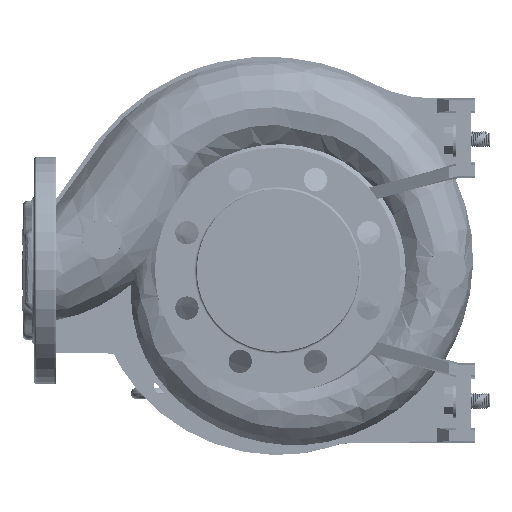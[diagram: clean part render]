
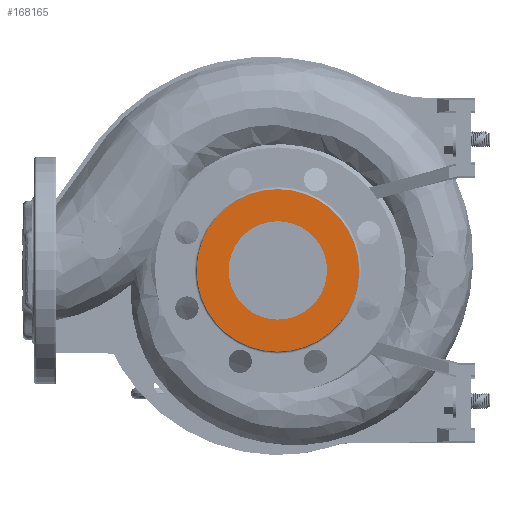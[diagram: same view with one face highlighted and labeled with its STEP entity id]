
A CAD part, left-side view. The second image highlights one B-rep face of the part: STEP entity #168165.
In plain terms, the highlighted planar face has unit normal (-1, 0, 0).
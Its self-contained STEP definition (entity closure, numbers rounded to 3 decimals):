
#5607 = AXIS2_PLACEMENT_3D ( 'NONE', #11086, #136278, #162971 ) ;
#11086 = CARTESIAN_POINT ( 'NONE',  ( -100., 0., 0. ) ) ;
#13030 = AXIS2_PLACEMENT_3D ( 'NONE', #18624, #87690, #60958 ) ;
#13301 = DIRECTION ( 'NONE',  ( -1., 0., 0. ) ) ;
#15104 = DIRECTION ( 'NONE',  ( 0., -1., 0. ) ) ;
#18624 = CARTESIAN_POINT ( 'NONE',  ( -100., 0., 0. ) ) ;
#18938 = CIRCLE ( 'NONE', #13030, 66. ) ;
#21788 = EDGE_CURVE ( 'NONE', #119410, #126117, #165325, .T. ) ;
#22462 = ORIENTED_EDGE ( 'NONE', *, *, #21788, .F. ) ;
#33006 = EDGE_CURVE ( 'NONE', #126117, #119410, #177533, .T. ) ;
#35446 = VERTEX_POINT ( 'NONE', #97945 ) ;
#37482 = CARTESIAN_POINT ( 'NONE',  ( -100., 40., 0. ) ) ;
#51157 = EDGE_CURVE ( 'NONE', #35446, #154435, #18938, .T. ) ;
#54816 = ORIENTED_EDGE ( 'NONE', *, *, #151331, .F. ) ;
#57600 = ORIENTED_EDGE ( 'NONE', *, *, #33006, .F. ) ;
#60958 = DIRECTION ( 'NONE',  ( 0., 1., 0. ) ) ;
#77703 = AXIS2_PLACEMENT_3D ( 'NONE', #93944, #147368, #106851 ) ;
#80137 = PLANE ( 'NONE',  #77703 ) ;
#81284 = DIRECTION ( 'NONE',  ( -1., 0., 0. ) ) ;
#83650 = AXIS2_PLACEMENT_3D ( 'NONE', #167913, #13301, #15104 ) ;
#87690 = DIRECTION ( 'NONE',  ( 1., 0., 0. ) ) ;
#91232 = FACE_BOUND ( 'NONE', #100297, .T. ) ;
#93944 = CARTESIAN_POINT ( 'NONE',  ( -100., 0., 0. ) ) ;
#96918 = CARTESIAN_POINT ( 'NONE',  ( -100., 0., 0. ) ) ;
#97826 = DIRECTION ( 'NONE',  ( 0., -1., 0. ) ) ;
#97945 = CARTESIAN_POINT ( 'NONE',  ( -100., -66., 0. ) ) ;
#100297 = EDGE_LOOP ( 'NONE', ( #22462, #57600 ) ) ;
#102659 = CARTESIAN_POINT ( 'NONE',  ( -100., -40., 0. ) ) ;
#106851 = DIRECTION ( 'NONE',  ( 0., -1., 0. ) ) ;
#112398 = AXIS2_PLACEMENT_3D ( 'NONE', #96918, #81284, #97826 ) ;
#119410 = VERTEX_POINT ( 'NONE', #102659 ) ;
#126117 = VERTEX_POINT ( 'NONE', #37482 ) ;
#136278 = DIRECTION ( 'NONE',  ( 1., 0., 0. ) ) ;
#136922 = EDGE_LOOP ( 'NONE', ( #54816, #179966 ) ) ;
#137182 = FACE_OUTER_BOUND ( 'NONE', #136922, .T. ) ;
#147368 = DIRECTION ( 'NONE',  ( -1., 0., 0. ) ) ;
#151331 = EDGE_CURVE ( 'NONE', #154435, #35446, #167189, .T. ) ;
#154435 = VERTEX_POINT ( 'NONE', #165384 ) ;
#162971 = DIRECTION ( 'NONE',  ( 0., 1., 0. ) ) ;
#165325 = CIRCLE ( 'NONE', #112398, 40. ) ;
#165384 = CARTESIAN_POINT ( 'NONE',  ( -100., 66., 0. ) ) ;
#167189 = CIRCLE ( 'NONE', #5607, 66. ) ;
#167913 = CARTESIAN_POINT ( 'NONE',  ( -100., 0., 0. ) ) ;
#168165 = ADVANCED_FACE ( 'NONE', ( #91232, #137182 ), #80137, .T. ) ;
#177533 = CIRCLE ( 'NONE', #83650, 40. ) ;
#179966 = ORIENTED_EDGE ( 'NONE', *, *, #51157, .F. ) ;
